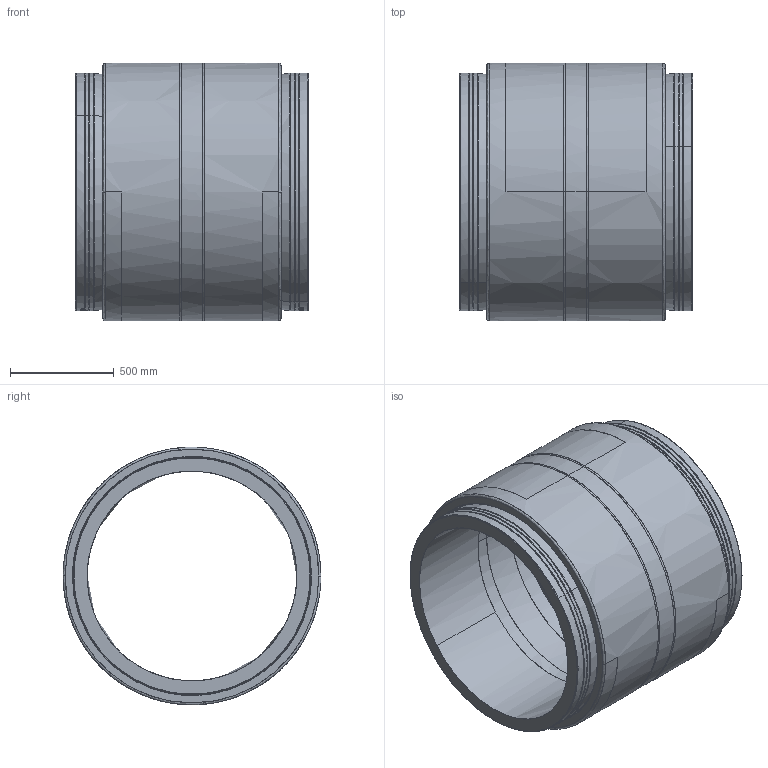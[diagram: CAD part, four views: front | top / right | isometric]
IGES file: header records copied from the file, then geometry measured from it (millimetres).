
Start section:  PTC IGES file: km-xl_d1000.igs
Global section: file name: km-xl_d1000.igs; native system: Pro/ENGINEER by Parametric Technology Corporation; preprocessor: 2011490; author: mtunjic; organization: Unknown; date: 20130923.113149; units: millimetre
Bounding box: 1125 x 1245 x 1245 mm (x, y, z)
Surface area: 12702945.9 mm2 (no closed solid volume)
Topology: 0 solids, 0 shells, 396 faces, 1992 edges, 1992 vertices
Faces by surface type: bspline 396
